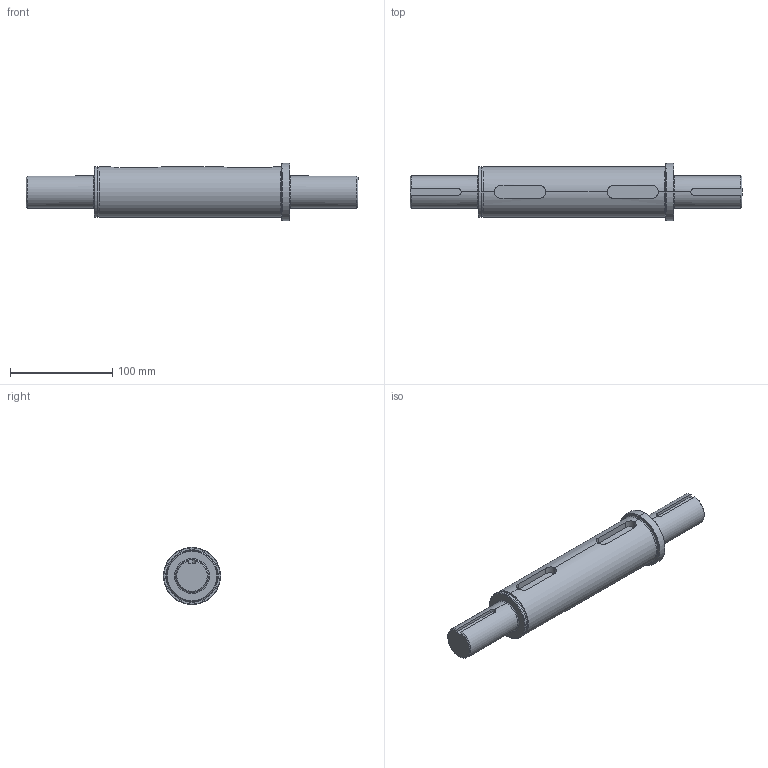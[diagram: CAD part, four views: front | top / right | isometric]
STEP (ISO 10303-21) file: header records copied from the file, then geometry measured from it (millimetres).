
FILE_DESCRIPTION (( 'STEP AP203' ), '1' );
FILE_NAME ('SSHdR262-OPS-DS-1.25.STEP', '2023-01-07T03:25:08', ( '' ), ( '' ), 'SwSTEP 2.0', 'SolidWorks 2012', '' );
FILE_SCHEMA (( 'CONFIG_CONTROL_DESIGN' ));
Length unit declared in the file: millimetre
Products named in the file (1): SSHdR262-OPS-DS-1.25
Bounding box: 324.2 x 56 x 56 mm (x, y, z)
Volume: 462122.3 mm3; surface area: 49892.9 mm2
Topology: 1 solids, 1 shells, 55 faces, 128 edges, 80 vertices
Faces by surface type: cylinder 21, plane 19, cone 9, torus 6
Entity records: 1869 total; most frequent: CARTESIAN_POINT 520, DIRECTION 278, ORIENTED_EDGE 256, EDGE_CURVE 128, AXIS2_PLACEMENT_3D 110, VERTEX_POINT 80, EDGE_LOOP 60, LINE 58
